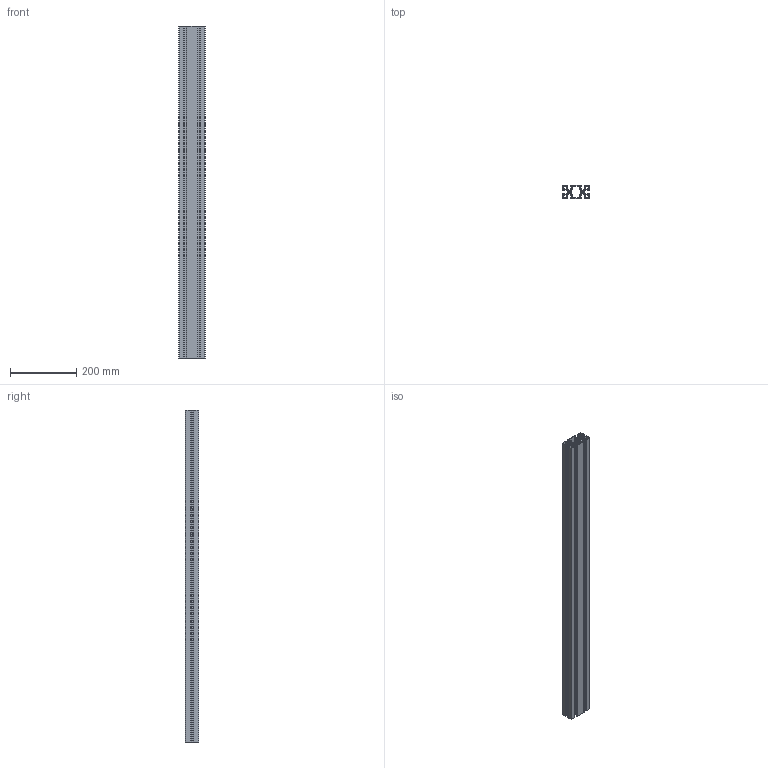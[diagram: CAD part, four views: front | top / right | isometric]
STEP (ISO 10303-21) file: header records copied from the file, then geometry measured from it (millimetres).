
FILE_DESCRIPTION((''),'2;1');
FILE_NAME('\\Dtp_2\share\iriguchi2\M8フレーム\AFS-4080F-8.stp','2014-12-01T13:04:07',('AMS8'),(''),'Autodesk Inventor 2008','Autodesk Inventor 2008','');
FILE_SCHEMA(('AUTOMOTIVE_DESIGN { 1 0 10303 214 1 1 1 1 }'));
Length unit declared in the file: millimetre
Products named in the file (1): Part52
Bounding box: 80 x 40 x 1000 mm (x, y, z)
Volume: 740674.3 mm3; surface area: 842033.4 mm2
Topology: 1 solids, 1 shells, 260 faces, 774 edges, 516 vertices
Faces by surface type: cylinder 138, plane 122
Full cylindrical faces by diameter (mm): 6.8 x2
Entity records: 8858 total; most frequent: DIRECTION 1570, CARTESIAN_POINT 1549, ORIENTED_EDGE 1544, EDGE_CURVE 772, AXIS2_PLACEMENT_3D 537, VERTEX_POINT 516, VECTOR 496, LINE 496
